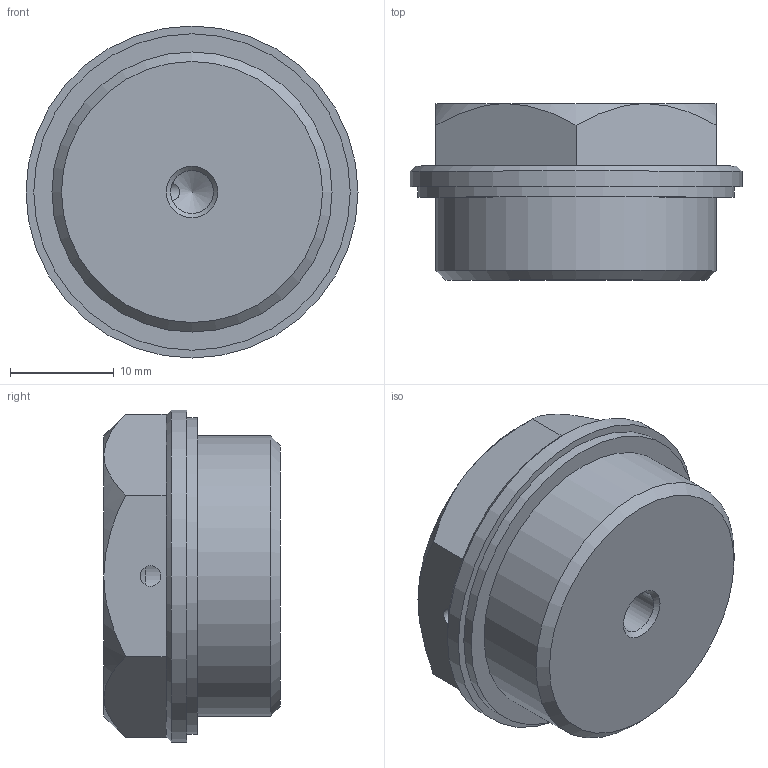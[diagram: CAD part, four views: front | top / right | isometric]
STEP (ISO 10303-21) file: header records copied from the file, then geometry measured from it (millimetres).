
FILE_DESCRIPTION( ( 'STEP AP203' ), '1' );
FILE_NAME( 'C:/Temp/Ganter_Step_05_03_2020/data/3_5/gn742/gn742_2/Threaded plug GN 742-32-M27x1,5-OSS-2.stp', '2020-03-12T13:39:48', ( 'License CC BY-ND 4.0' ), ( 'CADENAS' ), ' ', 'PARTsolutions', ' ' );
FILE_SCHEMA( ( 'CONFIG_CONTROL_DESIGN' ) );
Length unit declared in the file: millimetre
Products named in the file (1): _Threaded plug GN 742-32-M27x1,5-OSS-2
Bounding box: 32 x 17 x 32 mm (x, y, z)
Volume: 10405.6 mm3; surface area: 3260.8 mm2
Topology: 1 solids, 1 shells, 37 faces, 80 edges, 46 vertices
Faces by surface type: plane 22, cone 10, cylinder 5
Full cylindrical faces by diameter (mm): 2 x1, 4.134 x1, 27 x1, 30.5 x1, 32 x1
Entity records: 1056 total; most frequent: CARTESIAN_POINT 274, DIRECTION 158, ORIENTED_EDGE 134, AXIS2_PLACEMENT_3D 67, EDGE_CURVE 67, EDGE_LOOP 49, VERTEX_POINT 43, FACE_OUTER_BOUND 42
